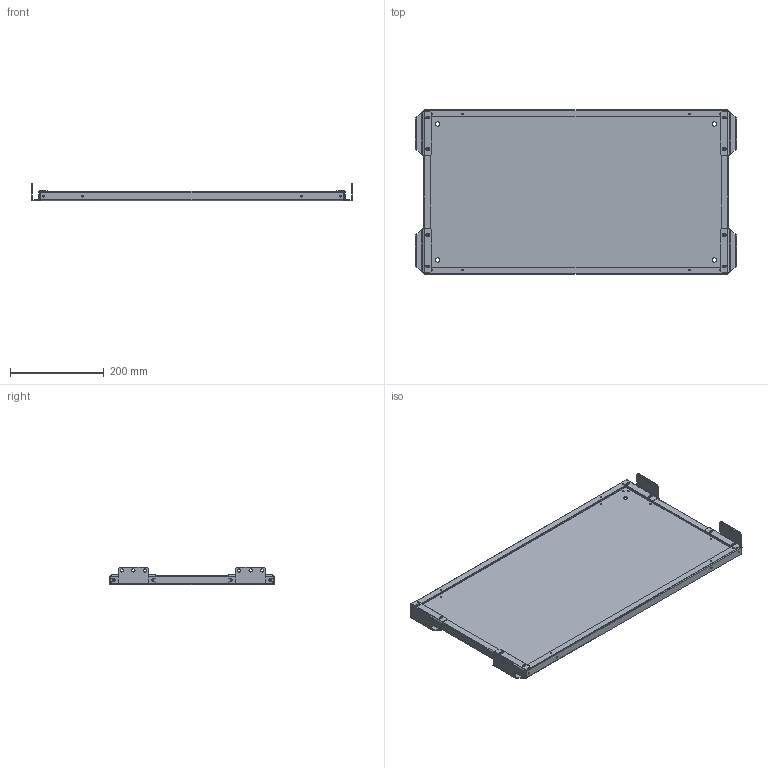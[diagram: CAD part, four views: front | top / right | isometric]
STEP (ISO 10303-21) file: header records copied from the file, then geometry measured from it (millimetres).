
FILE_DESCRIPTION (( 'STEP AP203' ), '1' );
FILE_NAME ('MP 65.35 M Ïàíåëü ìîíòàæíàÿ ñåêöèîííàÿ.STEP', '2013-01-09T13:31:53', ( 'System' ), ( '' ), 'SwSTEP 2.0', 'SolidWorks 2012', '' );
FILE_SCHEMA (( 'CONFIG_CONTROL_DESIGN' ));
Length unit declared in the file: millimetre
Products named in the file (1): MP 65.35 M Ïàíåëü ìîíòàæíàÿ ñåêöèîííàÿ
Bounding box: 685 x 350 x 37.75 mm (x, y, z)
Volume: 624845.2 mm3; surface area: 633747.5 mm2
Topology: 5 solids, 5 shells, 388 faces, 1016 edges, 632 vertices
Faces by surface type: cylinder 196, plane 168, bspline 16, sphere 8
Entity records: 12713 total; most frequent: CARTESIAN_POINT 2749, DIRECTION 2050, ORIENTED_EDGE 2016, EDGE_CURVE 1008, AXIS2_PLACEMENT_3D 733, VERTEX_POINT 632, VECTOR 584, LINE 584
